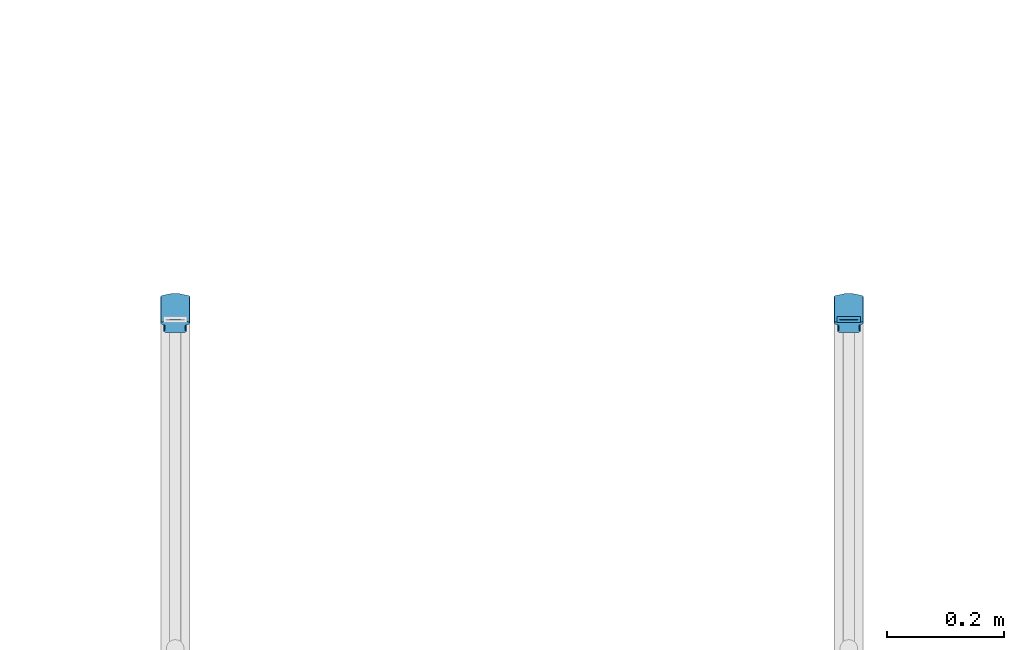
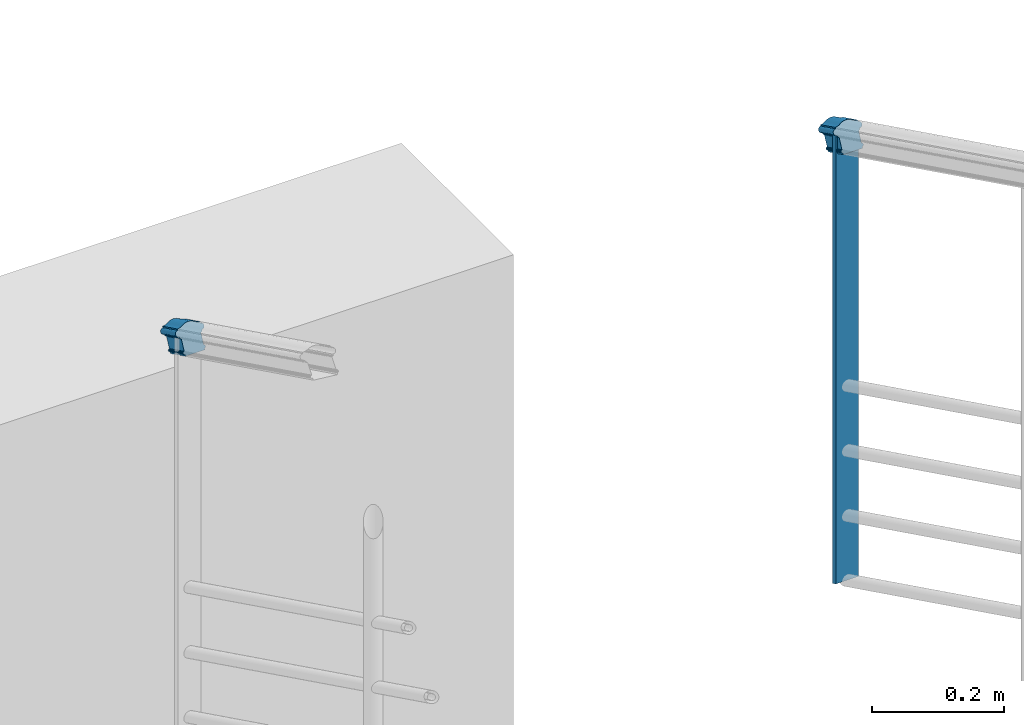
# One storey, part 6 of 16: 3 members, 2 elements without a shape of their own.
"""IFC2X3 building model written with IfcOpenShell, lengths in millimetres."""

from ifc_helpers import new_model, entity, si_unit, converted_unit, derived_unit, money_unit, direction, frame, origin_with_axes, place, context, subcontext, project, spatial, faceted_brep, source, transform, mapped, material, type_object, element, aggregate, save


model = new_model("IFC2X3")

# Units and contexts
model_context = context("Model", 3, precision=0.01, world=origin_with_axes(), true_north=direction((0.0, 1.0)))
body_context = subcontext(model_context, "Body", "Model", "MODEL_VIEW")
ifc_project = project(units=[si_unit("LENGTHUNIT", "METRE", prefix="MILLI"), si_unit("AREAUNIT", "SQUARE_METRE"), si_unit("VOLUMEUNIT", "CUBIC_METRE"), converted_unit("PLANEANGLEUNIT", "DEGREE", entity("IfcPlaneAngleMeasure", 0.0174532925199), si_unit("PLANEANGLEUNIT", "RADIAN"), dimensions=[0, 0, 0, 0, 0, 0, 0]), si_unit("SOLIDANGLEUNIT", "STERADIAN"), money_unit("EUR"), converted_unit("TIMEUNIT", "Year", entity("IfcTimeMeasure", 31556926.0), si_unit("TIMEUNIT", "SECOND"), dimensions=[0, 0, 1, 0, 0, 0, 0]), si_unit("MASSUNIT", "GRAM", prefix="KILO"), si_unit("THERMODYNAMICTEMPERATUREUNIT", "DEGREE_CELSIUS"), si_unit("LUMINOUSINTENSITYUNIT", "LUMEN"), si_unit("ENERGYUNIT", "JOULE", prefix="MEGA"), derived_unit("THERMALCONDUCTANCEUNIT", [(si_unit("POWERUNIT", "WATT"), 1), (si_unit("LENGTHUNIT", "METRE"), -1), (si_unit("THERMODYNAMICTEMPERATUREUNIT", "KELVIN"), -1)]), derived_unit("SPECIFICHEATCAPACITYUNIT", [(si_unit("ENERGYUNIT", "JOULE"), 1), (si_unit("MASSUNIT", "GRAM", prefix="KILO"), -1), (si_unit("THERMODYNAMICTEMPERATUREUNIT", "KELVIN"), -1)]), derived_unit("MASSDENSITYUNIT", [(si_unit("MASSUNIT", "GRAM", prefix="KILO"), 1), (si_unit("VOLUMEUNIT", "CUBIC_METRE"), -1)])], contexts=[model_context])

# Site, building, storey
site_placement = place(None, origin_with_axes())
site = spatial("IfcSite", under=ifc_project, at=site_placement, Name="Paldiski mnt 245/1, Tallinn, Harjumaa", CompositionType="COMPLEX")
building_placement = place(site_placement, origin_with_axes())
building = spatial("IfcBuilding", under=site, at=building_placement, Name="RKAS Hoone üldnimetus (kasutust iseloomustav) -> IFC Project Manager -> SOLIBRI", CompositionType="ELEMENT")
storey_placement = place(building_placement, frame((0.0, 0.0, -1200.0), z_axis=(0.0, 0.0, 1.0), x_axis=(1.0, 0.0, 0.0)))
storey = spatial("IfcBuildingStorey", under=building, at=storey_placement, Name="Vundament", CompositionType="ELEMENT", Elevation=-1200.0)

# Railing, members
railing_type = type_object("IfcRailingType", Name="Railing Type", PredefinedType="NOTDEFINED")
railing_1_placement = place(storey_placement, frame((-44615.0, -7778.11378171, 1453.63636364), z_axis=(0.0, 0.0, 1.0), x_axis=(-0.773149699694, -0.634223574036, 0.0)))
railing_1 = element("IfcRailing", 1, at=railing_1_placement, inside=storey, type_object=railing_type, Name="PIIRE", PredefinedType="NOTDEFINED")
ifc_material_1 = material(Name="ET-06_Teras - Konstruktsioon")
member_type_1 = type_object("IfcMemberType", Name="IfcMember", PredefinedType="POST")
shared_shape_1 = source(origin_with_axes(), body_context, "Body", "Brep", [
    faceted_brep([(20.0, 5.0, 2.46293441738), (-20.0, 5.0, 2.46293441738), (-20.0, 5.0, 832.462934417), (20.0, 5.0, 832.462934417), (20.0, -5.0, -2.46293441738), (-20.0, -5.0, -2.46293441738), (15.5, 0.5, 0.246293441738), (-15.5, 0.5, 0.246293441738), (-15.5, -0.5, -0.246293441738), (15.5, -0.5, -0.246293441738), (-20.0, -5.0, 827.537065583), (20.0, -5.0, 827.537065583), (15.5, 0.499999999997, 830.246293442), (15.5, -0.500000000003, 829.753706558), (-15.5, -0.500000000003, 829.753706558), (-15.5, 0.499999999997, 830.246293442)], [[[0, 1, 2, 3]], [[0, 4, 5, 1], [6, 7, 8, 9]], [[1, 5, 10, 2]], [[3, 2, 10, 11], [12, 13, 14, 15]], [[4, 0, 3, 11]], [[5, 4, 11, 10]], [[7, 6, 12, 15]], [[8, 7, 15, 14]], [[9, 8, 14, 13]], [[6, 9, 13, 12]]]),
])
member_1_placement = place(railing_1_placement, frame((0.0, 0.0, 0.0), z_axis=(0.0, 0.0, 1.0), x_axis=(-0.773149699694, 0.634223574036, 0.0)))
member_1 = element("IfcMember", 2, at=member_1_placement, type_object=member_type_1, material=ifc_material_1, Name="PIIRDE POST - 001", ObjectType="POST", context=body_context, shape_type="MappedRepresentation", body=[
    mapped(shared_shape_1, transform((0.0, 0.0, 0.0), x_axis=(-1.0, 0.0, 0.0), y_axis=(0.0, -1.0, 0.0), z_axis=(0.0, 0.0, 1.0))),
])
ifc_material_2 = material(Name="ET-07_Teras - Roostevaba")
member_type_2 = type_object("IfcMemberType", Name="IfcMember", PredefinedType="USERDEFINED")
shared_shape_2 = source(origin_with_axes(), body_context, "Body", "Brep", [
    faceted_brep([(17.1348314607, 22.0942804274, 805.146429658), (17.1348314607, 20.853028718, 807.666293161), (17.1348314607, -24.0005416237, 785.572012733), (17.1348314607, -22.7592899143, 783.052149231), (-17.1348314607, 22.0942804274, 805.146429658), (-17.1348314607, 20.853028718, 807.666293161), (-17.3551690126, 20.8487777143, 807.674923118), (-17.7891492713, 20.8149635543, 807.743569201), (-18.2032484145, 20.7483626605, 807.87877559), (-18.5848842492, 20.6509986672, 808.076434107), (-18.9224609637, 20.5258299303, 808.330539), (-19.2057214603, 20.3766596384, 808.633369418), (-19.4260590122, 20.2080202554, 808.975724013), (-19.5767787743, 20.0250358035, 809.347200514), (-19.653301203, 19.8332661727, 809.736511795), (-19.653301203, 19.6385381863, 810.13182883), (-19.5767787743, 19.4467685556, 810.521140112), (-19.4260590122, 19.2637841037, 810.892616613), (-19.2057214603, 19.0951447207, 811.234971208), (-18.9224609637, 18.9459744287, 811.537801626), (-18.5848842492, 18.8208056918, 811.791906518), (-18.2032484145, 18.7234416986, 811.989565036), (-17.7891492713, 18.6568408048, 812.124771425), (-17.3551690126, 18.6230266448, 812.193417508), (-17.1348314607, 18.6187756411, 812.202047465), (-17.1348314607, 10.426514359, 828.83314658), (-17.1444516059, 10.3291503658, 829.030805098), (-17.2209740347, 10.1373807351, 829.420116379), (-17.3716937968, 9.95439628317, 829.79159288), (-17.5920313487, 9.78575690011, 830.133947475), (-17.8752918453, 9.63658660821, 830.436777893), (-18.2128685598, 9.51141787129, 830.690882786), (-18.5945043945, 9.41405387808, 830.888541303), (-19.0086035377, 9.34745298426, 831.023747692), (-19.4425837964, 9.31363882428, 831.092393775), (-19.6629213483, 9.30938782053, 831.101023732), (-19.6629213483, 8.31638645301, 833.116914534), (-20.1280784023, 8.30741211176, 833.135133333), (-21.0442589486, 8.23602666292, 833.280052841), (-21.9184682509, 8.09542477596, 833.565488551), (-22.7241439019, 7.88987856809, 833.982767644), (-23.4368058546, 7.62563345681, 834.519211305), (-24.0348002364, 7.31071839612, 835.158519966), (-24.4999572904, 6.95470192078, 835.881268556), (-24.8181434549, 6.56840141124, 836.665496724), (-24.9796908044, 6.16355441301, 837.487376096), (-24.9796908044, 5.75246199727, 838.321934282), (-24.8181434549, 5.34761499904, 839.143813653), (-24.4999572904, 4.9613144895, 839.928041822), (-24.0348002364, 4.60529801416, 840.650790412), (-23.4368058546, 4.29038295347, 841.290099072), (-22.7241439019, 4.02613784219, 841.826542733), (-21.9184682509, 3.82059163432, 842.243821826), (-21.0442589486, 3.67998974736, 842.529257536), (-20.1280784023, 3.60860429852, 842.674177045), (-19.6629213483, 3.59962995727, 842.692395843), (-19.6629213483, 2.63562365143, 844.649423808), (-19.1300013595, 2.63177115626, 844.657244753), (-16.3105120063, 2.4815643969, 844.962179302), (-13.5928839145, 2.11729278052, 845.701686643), (-11.0596908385, 1.55002451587, 846.85329722), (-10.6117353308, 1.4224001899, 847.1123872), (-9.55056179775, 1.13081413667, 847.704335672), (-6.53296902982, 0.509025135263, 848.966628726), (-3.31687530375, 0.128230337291, 849.739679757), (0.0, 0.0, 850.0), (3.31687530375, 0.128230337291, 849.739679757), (6.53296902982, 0.509025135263, 848.966628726), (9.55056179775, 1.13081413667, 847.704335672), (10.6117353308, 1.4224001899, 847.1123872), (13.5928839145, 2.11729278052, 845.701686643), (16.3105120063, 2.4815643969, 844.962179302), (19.1300013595, 2.63177115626, 844.657244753), (19.6629213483, 2.63562365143, 844.649423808), (19.6629213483, 3.59962995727, 842.692395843), (20.1280784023, 3.60860429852, 842.674177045), (21.0442589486, 3.67998974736, 842.529257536), (21.9184682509, 3.82059163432, 842.243821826), (22.7241439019, 4.02613784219, 841.826542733), (23.4368058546, 4.29038295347, 841.290099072), (24.0348002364, 4.60529801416, 840.650790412), (24.4999572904, 4.9613144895, 839.928041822), (24.8181434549, 5.34761499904, 839.143813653), (24.9796908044, 5.75246199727, 838.321934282), (24.9796908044, 6.16355441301, 837.487376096), (24.8181434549, 6.56840141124, 836.665496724), (24.4999572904, 6.95470192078, 835.881268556), (24.0348002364, 7.31071839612, 835.158519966), (23.4368058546, 7.62563345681, 834.519211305), (22.7241439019, 7.88987856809, 833.982767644), (21.9184682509, 8.09542477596, 833.565488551), (21.0442589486, 8.23602666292, 833.280052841), (20.1280784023, 8.30741211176, 833.135133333), (19.6629213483, 8.31638645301, 833.116914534), (19.6629213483, 9.30938782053, 831.101023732), (19.4425837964, 9.31363882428, 831.092393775), (19.0086035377, 9.34745298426, 831.023747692), (18.5945043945, 9.41405387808, 830.888541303), (18.2128685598, 9.51141787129, 830.690882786), (17.8752918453, 9.63658660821, 830.436777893), (17.5920313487, 9.78575690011, 830.133947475), (17.3716937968, 9.95439628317, 829.79159288), (17.2209740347, 10.1373807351, 829.420116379), (17.1444516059, 10.3291503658, 829.030805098), (17.1348314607, 10.426514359, 828.83314658), (17.1348314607, 18.6187756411, 812.202047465), (17.3551690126, 18.6230266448, 812.193417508), (17.7891492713, 18.6568408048, 812.124771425), (18.2032484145, 18.7234416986, 811.989565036), (18.5848842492, 18.8208056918, 811.791906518), (18.9224609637, 18.9459744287, 811.537801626), (19.2057214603, 19.0951447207, 811.234971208), (19.4260590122, 19.2637841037, 810.892616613), (19.5767787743, 19.4467685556, 810.521140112), (19.653301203, 19.6385381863, 810.13182883), (19.653301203, 19.8332661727, 809.736511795), (19.5767787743, 20.0250358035, 809.347200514), (19.4260590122, 20.2080202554, 808.975724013), (19.2057214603, 20.3766596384, 808.633369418), (18.9224609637, 20.5258299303, 808.330539), (18.5848842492, 20.6509986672, 808.076434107), (18.2032484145, 20.7483626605, 807.87877559), (17.7891492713, 20.8149635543, 807.743569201), (17.3551690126, 20.8487777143, 807.674923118), (17.3551690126, -24.0047926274, 785.580642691), (17.7891492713, -24.0386067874, 785.649288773), (18.2032484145, -24.1052076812, 785.784495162), (18.5848842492, -24.2025716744, 785.98215368), (18.9224609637, -24.3277404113, 786.236258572), (19.2057214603, -24.4769107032, 786.53908899), (19.4260590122, -24.6455500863, 786.881443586), (19.5767787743, -24.8285345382, 787.252920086), (19.653301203, -25.0203041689, 787.642231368), (19.653301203, -25.2150321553, 788.037548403), (19.5767787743, -25.4068017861, 788.426859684), (19.4260590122, -25.589786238, 788.798336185), (19.2057214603, -25.758425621, 789.14069078), (18.9224609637, -25.9075959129, 789.443521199), (18.5848842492, -26.0327646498, 789.697626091), (18.2032484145, -26.130128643, 789.895284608), (17.7891492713, -26.1967295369, 790.030490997), (17.3551690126, -26.2305436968, 790.09913708), (17.1348314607, -26.2347947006, 790.107767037), (17.1348314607, -34.4270559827, 806.738866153), (17.1444516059, -34.5244199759, 806.936524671), (17.2209740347, -34.7161896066, 807.325835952), (17.3716937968, -34.8991740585, 807.697312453), (17.5920313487, -35.0678134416, 808.039667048), (17.8752918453, -35.2169837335, 808.342497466), (18.2128685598, -35.3421524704, 808.596602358), (18.5945043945, -35.4395164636, 808.794260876), (19.0086035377, -35.5061173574, 808.929467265), (19.4425837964, -35.5399315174, 808.998113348), (19.6629213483, -35.5441825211, 809.006743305), (19.6629213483, -36.5371838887, 811.022634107), (20.1280784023, -36.5461582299, 811.040852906), (21.0442589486, -36.6175436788, 811.185772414), (21.9184682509, -36.7581455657, 811.471208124), (22.7241439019, -36.9636917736, 811.888487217), (23.4368058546, -37.2279368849, 812.424930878), (24.0348002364, -37.5428519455, 813.064239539), (24.4999572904, -37.8988684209, 813.786988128), (24.8181434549, -38.2851689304, 814.571216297), (24.9796908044, -38.6900159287, 815.393095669), (24.9796908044, -39.1011083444, 816.227653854), (24.8181434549, -39.5059553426, 817.049533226), (24.4999572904, -39.8922558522, 817.833761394), (24.0348002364, -40.2482723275, 818.556509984), (23.4368058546, -40.5631873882, 819.195818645), (22.7241439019, -40.8274324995, 819.732262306), (21.9184682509, -41.0329787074, 820.149541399), (21.0442589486, -41.1735805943, 820.434977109), (20.1280784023, -41.2449660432, 820.579896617), (19.6629213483, -41.2539403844, 820.598115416), (19.6629213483, -42.2179466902, 822.55514338), (19.1300013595, -42.2217991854, 822.562964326), (16.3105120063, -42.3720059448, 822.867898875), (13.5928839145, -42.7362775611, 823.607406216), (10.6117353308, -43.4311701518, 825.018106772), (9.55056179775, -43.722756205, 825.610055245), (6.53296902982, -44.3445452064, 826.872348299), (3.31687530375, -44.7253400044, 827.645399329), (0.0, -44.8535703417, 827.905719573), (-3.31687530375, -44.7253400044, 827.645399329), (-6.53296902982, -44.3445452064, 826.872348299), (-9.55056179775, -43.722756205, 825.610055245), (-10.6117353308, -43.4311701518, 825.018106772), (-11.0596908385, -43.3035458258, 824.759016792), (-13.5928839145, -42.7362775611, 823.607406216), (-16.3105120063, -42.3720059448, 822.867898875), (-19.1300013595, -42.2217991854, 822.562964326), (-19.6629213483, -42.2179466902, 822.55514338), (-19.6629213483, -41.2539403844, 820.598115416), (-20.1280784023, -41.2449660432, 820.579896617), (-21.0442589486, -41.1735805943, 820.434977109), (-21.9184682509, -41.0329787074, 820.149541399), (-22.7241439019, -40.8274324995, 819.732262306), (-23.4368058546, -40.5631873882, 819.195818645), (-24.0348002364, -40.2482723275, 818.556509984), (-24.4999572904, -39.8922558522, 817.833761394), (-24.8181434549, -39.5059553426, 817.049533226), (-24.9796908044, -39.1011083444, 816.227653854), (-24.9796908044, -38.6900159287, 815.393095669), (-24.8181434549, -38.2851689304, 814.571216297), (-24.4999572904, -37.8988684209, 813.786988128), (-24.0348002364, -37.5428519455, 813.064239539), (-23.4368058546, -37.2279368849, 812.424930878), (-22.7241439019, -36.9636917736, 811.888487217), (-21.9184682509, -36.7581455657, 811.471208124), (-21.0442589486, -36.6175436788, 811.185772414), (-20.1280784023, -36.5461582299, 811.040852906), (-19.6629213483, -36.5371838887, 811.022634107), (-19.6629213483, -35.5441825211, 809.006743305), (-19.4425837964, -35.5399315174, 808.998113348), (-19.0086035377, -35.5061173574, 808.929467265), (-18.5945043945, -35.4395164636, 808.794260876), (-18.2128685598, -35.3421524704, 808.596602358), (-17.8752918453, -35.2169837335, 808.342497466), (-17.5920313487, -35.0678134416, 808.039667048), (-17.3716937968, -34.8991740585, 807.697312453), (-17.2209740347, -34.7161896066, 807.325835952), (-17.1444516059, -34.5244199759, 806.936524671), (-17.1348314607, -34.4270559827, 806.738866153), (-17.1348314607, -26.2347947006, 790.107767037), (-17.3551690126, -26.2305436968, 790.09913708), (-17.7891492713, -26.1967295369, 790.030490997), (-18.2032484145, -26.130128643, 789.895284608), (-18.5848842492, -26.0327646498, 789.697626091), (-18.9224609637, -25.9075959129, 789.443521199), (-19.2057214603, -25.758425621, 789.14069078), (-19.4260590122, -25.589786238, 788.798336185), (-19.5767787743, -25.4068017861, 788.426859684), (-19.653301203, -25.2150321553, 788.037548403), (-19.653301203, -25.0203041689, 787.642231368), (-19.5767787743, -24.8285345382, 787.252920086), (-19.4260590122, -24.6455500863, 786.881443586), (-19.2057214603, -24.4769107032, 786.53908899), (-18.9224609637, -24.3277404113, 786.236258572), (-18.5848842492, -24.2025716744, 785.98215368), (-18.2032484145, -24.1052076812, 785.784495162), (-17.7891492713, -24.0386067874, 785.649288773), (-17.3551690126, -24.0047926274, 785.580642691), (-17.1348314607, -24.0005416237, 785.572012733), (-17.1348314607, -22.7592899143, 783.052149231)], [[[0, 1, 2, 3]], [[0, 4, 5, 6, 7, 8, 9, 10, 11, 12, 13, 14, 15, 16, 17, 18, 19, 20, 21, 22, 23, 24, 25, 26, 27, 28, 29, 30, 31, 32, 33, 34, 35, 36, 37, 38, 39, 40, 41, 42, 43, 44, 45, 46, 47, 48, 49, 50, 51, 52, 53, 54, 55, 56, 57, 58, 59, 60, 61, 62, 63, 64, 65, 66, 67, 68, 69, 70, 71, 72, 73, 74, 75, 76, 77, 78, 79, 80, 81, 82, 83, 84, 85, 86, 87, 88, 89, 90, 91, 92, 93, 94, 95, 96, 97, 98, 99, 100, 101, 102, 103, 104, 105, 106, 107, 108, 109, 110, 111, 112, 113, 114, 115, 116, 117, 118, 119, 120, 121, 122, 123, 1]], [[1, 123, 124, 2]], [[3, 2, 124, 125, 126, 127, 128, 129, 130, 131, 132, 133, 134, 135, 136, 137, 138, 139, 140, 141, 142, 143, 144, 145, 146, 147, 148, 149, 150, 151, 152, 153, 154, 155, 156, 157, 158, 159, 160, 161, 162, 163, 164, 165, 166, 167, 168, 169, 170, 171, 172, 173, 174, 175, 176, 177, 178, 179, 180, 181, 182, 183, 184, 185, 186, 187, 188, 189, 190, 191, 192, 193, 194, 195, 196, 197, 198, 199, 200, 201, 202, 203, 204, 205, 206, 207, 208, 209, 210, 211, 212, 213, 214, 215, 216, 217, 218, 219, 220, 221, 222, 223, 224, 225, 226, 227, 228, 229, 230, 231, 232, 233, 234, 235, 236, 237, 238, 239, 240, 241, 242, 243]], [[4, 0, 3, 243]], [[5, 4, 243, 242]], [[6, 5, 242, 241]], [[7, 6, 241, 240]], [[8, 7, 240, 239]], [[9, 8, 239, 238]], [[10, 9, 238, 237]], [[11, 10, 237, 236]], [[12, 11, 236, 235]], [[13, 12, 235, 234]], [[14, 13, 234, 233]], [[15, 14, 233, 232]], [[16, 15, 232, 231]], [[17, 16, 231, 230]], [[18, 17, 230, 229]], [[19, 18, 229, 228]], [[20, 19, 228, 227]], [[21, 20, 227, 226]], [[22, 21, 226, 225]], [[23, 22, 225, 224]], [[24, 23, 224, 223]], [[25, 24, 223, 222]], [[26, 25, 222, 221]], [[27, 26, 221, 220]], [[28, 27, 220, 219]], [[29, 28, 219, 218]], [[30, 29, 218, 217]], [[31, 30, 217, 216]], [[32, 31, 216, 215]], [[33, 32, 215, 214]], [[34, 33, 214, 213]], [[35, 34, 213, 212]], [[36, 35, 212, 211]], [[37, 36, 211, 210]], [[38, 37, 210, 209]], [[39, 38, 209, 208]], [[40, 39, 208, 207]], [[41, 40, 207, 206]], [[42, 41, 206, 205]], [[43, 42, 205, 204]], [[44, 43, 204, 203]], [[45, 44, 203, 202]], [[46, 45, 202, 201]], [[47, 46, 201, 200]], [[48, 47, 200, 199]], [[49, 48, 199, 198]], [[50, 49, 198, 197]], [[51, 50, 197, 196]], [[52, 51, 196, 195]], [[53, 52, 195, 194]], [[54, 53, 194, 193]], [[55, 54, 193, 192]], [[56, 55, 192, 191]], [[57, 56, 191, 190]], [[58, 57, 190, 189]], [[59, 58, 189, 188]], [[60, 59, 188, 187]], [[61, 60, 187, 186]], [[62, 61, 186, 185]], [[63, 62, 185, 184]], [[64, 63, 184, 183]], [[65, 64, 183, 182]], [[66, 65, 182, 181]], [[67, 66, 181, 180]], [[68, 67, 180, 179]], [[69, 68, 179, 178]], [[70, 69, 178, 177]], [[71, 70, 177, 176]], [[72, 71, 176, 175]], [[73, 72, 175, 174]], [[74, 73, 174, 173]], [[75, 74, 173, 172]], [[76, 75, 172, 171]], [[77, 76, 171, 170]], [[78, 77, 170, 169]], [[79, 78, 169, 168]], [[80, 79, 168, 167]], [[81, 80, 167, 166]], [[82, 81, 166, 165]], [[83, 82, 165, 164]], [[84, 83, 164, 163]], [[85, 84, 163, 162]], [[86, 85, 162, 161]], [[87, 86, 161, 160]], [[88, 87, 160, 159]], [[89, 88, 159, 158]], [[90, 89, 158, 157]], [[91, 90, 157, 156]], [[92, 91, 156, 155]], [[93, 92, 155, 154]], [[94, 93, 154, 153]], [[95, 94, 153, 152]], [[96, 95, 152, 151]], [[97, 96, 151, 150]], [[98, 97, 150, 149]], [[99, 98, 149, 148]], [[100, 99, 148, 147]], [[101, 100, 147, 146]], [[102, 101, 146, 145]], [[103, 102, 145, 144]], [[104, 103, 144, 143]], [[105, 104, 143, 142]], [[106, 105, 142, 141]], [[107, 106, 141, 140]], [[108, 107, 140, 139]], [[109, 108, 139, 138]], [[110, 109, 138, 137]], [[111, 110, 137, 136]], [[112, 111, 136, 135]], [[113, 112, 135, 134]], [[114, 113, 134, 133]], [[115, 114, 133, 132]], [[116, 115, 132, 131]], [[117, 116, 131, 130]], [[118, 117, 130, 129]], [[119, 118, 129, 128]], [[120, 119, 128, 127]], [[121, 120, 127, 126]], [[122, 121, 126, 125]], [[123, 122, 125, 124]]]),
])
member_2_placement = place(railing_1_placement, frame((0.0, 0.0, 0.0), z_axis=(0.0, 0.0, 1.0), x_axis=(-0.773149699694, 0.634223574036, 0.0)))
member_2 = element("IfcMember", 3, at=member_2_placement, type_object=member_type_2, material=ifc_material_2, Name="Piirde ülemise osa ots - 001", ObjectType="Rail", context=body_context, shape_type="MappedRepresentation", body=[
    mapped(shared_shape_2, transform((0.0, 0.0, 0.0), x_axis=(-1.0, 0.0, 0.0), y_axis=(0.0, -1.0, 0.0), z_axis=(0.0, 0.0, 1.0))),
])
aggregate(railing_1, [member_1, member_2])

# Railing, member
railing_2_placement = place(storey_placement, frame((-45764.8098199, -7778.11378171, 1483.63636364), z_axis=(0.0, 0.0, 1.0), x_axis=(-0.773149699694, -0.634223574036, 0.0)))
railing_2 = element("IfcRailing", 4, at=railing_2_placement, inside=storey, type_object=railing_type, Name="PIIRE", PredefinedType="NOTDEFINED")
member_3_placement = place(railing_2_placement, frame((0.0, 0.0, 0.0), z_axis=(0.0, 0.0, 1.0), x_axis=(-0.773149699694, 0.634223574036, 0.0)))
member_3 = element("IfcMember", 5, at=member_3_placement, type_object=member_type_2, material=ifc_material_2, Name="Piirde ülemise osa ots - 001", ObjectType="Rail", context=body_context, shape_type="MappedRepresentation", body=[
    mapped(shared_shape_2, transform((0.0, 0.0, 0.0), x_axis=(-1.0, 0.0, 0.0), y_axis=(0.0, -1.0, 0.0), z_axis=(0.0, 0.0, 1.0))),
])
aggregate(railing_2, [member_3])

save(model, "model.ifc")
